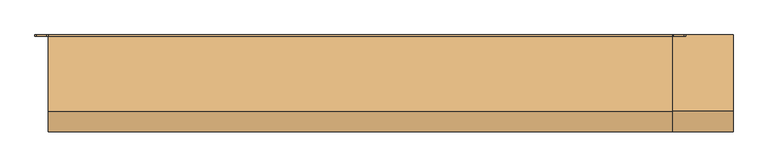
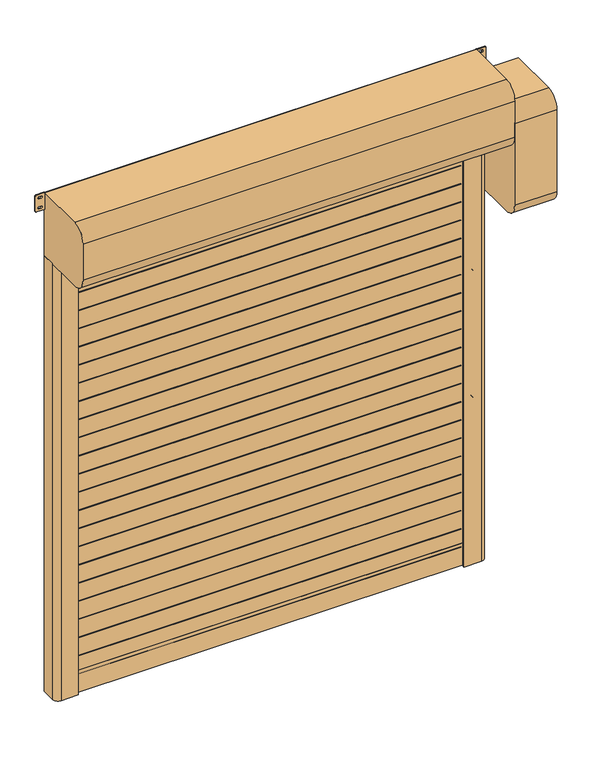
"""IFC4 building model written with IfcOpenShell, lengths in millimetres: door geometry, DO_WPB_Dynamicroll Frigo_Air_BMP : Dynamicroll Frigo1."""

from ifc_helpers import new_model, si_unit, point, frame, frame_2d, origin, origin_with_axes, place, context, project, spatial, polyline, circle_curve, trimmed, segment, composite_curve, outline, extrude, source, transform, mapped, element, save


def door_d4874c61(model_context):
    return source(origin(), model_context, "Body", "SweptSolid", [
        extrude(outline(polyline([(-1000.0, -81.5), (-1000.0, -59.5), (1000.0, -59.5), (1000.0, -81.5), (-1000.0, -81.5)])), frame((0.0, 0.0, 2599.0), z_axis=(0.0, 0.0, 1.0), x_axis=(1.0, 0.0, 0.0)), (0.0, 0.0, 1.0), 2.0),
        extrude(outline(polyline([(-1000.0, -81.5), (-1000.0, -59.5), (1000.0, -59.5), (1000.0, -81.5), (-1000.0, -81.5)])), frame((0.0, 0.0, 2499.0), z_axis=(0.0, 0.0, 1.0), x_axis=(1.0, 0.0, 0.0)), (0.0, 0.0, 1.0), 2.0),
        extrude(outline(polyline([(-1000.0, -81.5), (-1000.0, -59.5), (1000.0, -59.5), (1000.0, -81.5), (-1000.0, -81.5)])), frame((0.0, 0.0, 2399.0), z_axis=(0.0, 0.0, 1.0), x_axis=(1.0, 0.0, 0.0)), (0.0, 0.0, 1.0), 2.0),
        extrude(outline(polyline([(-1000.0, -81.5), (-1000.0, -59.5), (1000.0, -59.5), (1000.0, -81.5), (-1000.0, -81.5)])), frame((0.0, 0.0, 2299.0), z_axis=(0.0, 0.0, 1.0), x_axis=(1.0, 0.0, 0.0)), (0.0, 0.0, 1.0), 2.0),
        extrude(outline(polyline([(-1000.0, -81.5), (-1000.0, -59.5), (1000.0, -59.5), (1000.0, -81.5), (-1000.0, -81.5)])), frame((0.0, 0.0, 2199.0), z_axis=(0.0, 0.0, 1.0), x_axis=(1.0, 0.0, 0.0)), (0.0, 0.0, 1.0), 2.0),
        extrude(outline(polyline([(-1000.0, -81.5), (-1000.0, -59.5), (1000.0, -59.5), (1000.0, -81.5), (-1000.0, -81.5)])), frame((0.0, 0.0, 2099.0), z_axis=(0.0, 0.0, 1.0), x_axis=(1.0, 0.0, 0.0)), (0.0, 0.0, 1.0), 2.0),
        extrude(outline(polyline([(-1000.0, -81.5), (-1000.0, -59.5), (1000.0, -59.5), (1000.0, -81.5), (-1000.0, -81.5)])), frame((0.0, 0.0, 1999.0), z_axis=(0.0, 0.0, 1.0), x_axis=(1.0, 0.0, 0.0)), (0.0, 0.0, 1.0), 2.0),
        extrude(outline(polyline([(-1000.0, -81.5), (-1000.0, -59.5), (1000.0, -59.5), (1000.0, -81.5), (-1000.0, -81.5)])), frame((0.0, 0.0, 1899.0), z_axis=(0.0, 0.0, 1.0), x_axis=(1.0, 0.0, 0.0)), (0.0, 0.0, 1.0), 2.0),
        extrude(outline(polyline([(-1000.0, -81.5), (-1000.0, -59.5), (1000.0, -59.5), (1000.0, -81.5), (-1000.0, -81.5)])), frame((0.0, 0.0, 1799.0), z_axis=(0.0, 0.0, 1.0), x_axis=(1.0, 0.0, 0.0)), (0.0, 0.0, 1.0), 2.0),
        extrude(outline(polyline([(-1000.0, -81.5), (-1000.0, -59.5), (1000.0, -59.5), (1000.0, -81.5), (-1000.0, -81.5)])), frame((0.0, 0.0, 1699.0), z_axis=(0.0, 0.0, 1.0), x_axis=(1.0, 0.0, 0.0)), (0.0, 0.0, 1.0), 2.0),
        extrude(outline(polyline([(-1000.0, -81.5), (-1000.0, -59.5), (1000.0, -59.5), (1000.0, -81.5), (-1000.0, -81.5)])), frame((0.0, 0.0, 1599.0), z_axis=(0.0, 0.0, 1.0), x_axis=(1.0, 0.0, 0.0)), (0.0, 0.0, 1.0), 2.0),
        extrude(outline(polyline([(-1000.0, -81.5), (-1000.0, -59.5), (1000.0, -59.5), (1000.0, -81.5), (-1000.0, -81.5)])), frame((0.0, 0.0, 1499.0), z_axis=(0.0, 0.0, 1.0), x_axis=(1.0, 0.0, 0.0)), (0.0, 0.0, 1.0), 2.0),
        extrude(outline(polyline([(-1000.0, -81.5), (-1000.0, -59.5), (1000.0, -59.5), (1000.0, -81.5), (-1000.0, -81.5)])), frame((0.0, 0.0, 1399.0), z_axis=(0.0, 0.0, 1.0), x_axis=(1.0, 0.0, 0.0)), (0.0, 0.0, 1.0), 2.0),
        extrude(outline(polyline([(-1000.0, -81.5), (-1000.0, -59.5), (1000.0, -59.5), (1000.0, -81.5), (-1000.0, -81.5)])), frame((0.0, 0.0, 1299.0), z_axis=(0.0, 0.0, 1.0), x_axis=(1.0, 0.0, 0.0)), (0.0, 0.0, 1.0), 2.0),
        extrude(outline(polyline([(-1000.0, -81.5), (-1000.0, -59.5), (1000.0, -59.5), (1000.0, -81.5), (-1000.0, -81.5)])), frame((0.0, 0.0, 1199.0), z_axis=(0.0, 0.0, 1.0), x_axis=(1.0, 0.0, 0.0)), (0.0, 0.0, 1.0), 2.0),
        extrude(outline(polyline([(-1000.0, -81.5), (-1000.0, -59.5), (1000.0, -59.5), (1000.0, -81.5), (-1000.0, -81.5)])), frame((0.0, 0.0, 1099.0), z_axis=(0.0, 0.0, 1.0), x_axis=(1.0, 0.0, 0.0)), (0.0, 0.0, 1.0), 2.0),
        extrude(outline(polyline([(-1000.0, -81.5), (-1000.0, -59.5), (1000.0, -59.5), (1000.0, -81.5), (-1000.0, -81.5)])), frame((0.0, 0.0, 999.0), z_axis=(0.0, 0.0, 1.0), x_axis=(1.0, 0.0, 0.0)), (0.0, 0.0, 1.0), 2.0),
        extrude(outline(polyline([(-1000.0, -81.5), (-1000.0, -59.5), (1000.0, -59.5), (1000.0, -81.5), (-1000.0, -81.5)])), frame((0.0, 0.0, 899.0), z_axis=(0.0, 0.0, 1.0), x_axis=(1.0, 0.0, 0.0)), (0.0, 0.0, 1.0), 2.0),
        extrude(outline(polyline([(-1000.0, -81.5), (-1000.0, -59.5), (1000.0, -59.5), (1000.0, -81.5), (-1000.0, -81.5)])), frame((0.0, 0.0, 799.0), z_axis=(0.0, 0.0, 1.0), x_axis=(1.0, 0.0, 0.0)), (0.0, 0.0, 1.0), 2.0),
        extrude(outline(polyline([(-1000.0, -81.5), (-1000.0, -59.5), (1000.0, -59.5), (1000.0, -81.5), (-1000.0, -81.5)])), frame((0.0, 0.0, 699.0), z_axis=(0.0, 0.0, 1.0), x_axis=(1.0, 0.0, 0.0)), (0.0, 0.0, 1.0), 2.0),
        extrude(outline(polyline([(-1000.0, -81.5), (-1000.0, -59.5), (1000.0, -59.5), (1000.0, -81.5), (-1000.0, -81.5)])), frame((0.0, 0.0, 599.0), z_axis=(0.0, 0.0, 1.0), x_axis=(1.0, 0.0, 0.0)), (0.0, 0.0, 1.0), 2.0),
        extrude(outline(polyline([(-1000.0, -81.5), (-1000.0, -59.5), (1000.0, -59.5), (1000.0, -81.5), (-1000.0, -81.5)])), frame((0.0, 0.0, 499.0), z_axis=(0.0, 0.0, 1.0), x_axis=(1.0, 0.0, 0.0)), (0.0, 0.0, 1.0), 2.0),
        extrude(outline(polyline([(-1000.0, -81.5), (-1000.0, -59.5), (1000.0, -59.5), (1000.0, -81.5), (-1000.0, -81.5)])), frame((0.0, 0.0, 399.0), z_axis=(0.0, 0.0, 1.0), x_axis=(1.0, 0.0, 0.0)), (0.0, 0.0, 1.0), 2.0),
        extrude(outline(polyline([(-1000.0, -81.5), (-1000.0, -59.5), (1000.0, -59.5), (1000.0, -81.5), (-1000.0, -81.5)])), frame((0.0, 0.0, 299.0), z_axis=(0.0, 0.0, 1.0), x_axis=(1.0, 0.0, 0.0)), (0.0, 0.0, 1.0), 2.0),
        extrude(outline(polyline([(-1000.0, -81.5), (-1000.0, -59.5), (1000.0, -59.5), (1000.0, -81.5), (-1000.0, -81.5)])), frame((0.0, 0.0, 199.0), z_axis=(0.0, 0.0, 1.0), x_axis=(1.0, 0.0, 0.0)), (0.0, 0.0, 1.0), 2.0),
        extrude(outline(polyline([(-1000.0, -81.5), (-1000.0, -59.5), (1000.0, -59.5), (1000.0, -81.5), (-1000.0, -81.5)])), frame((0.0, 0.0, 99.0), z_axis=(0.0, 0.0, 1.0), x_axis=(1.0, 0.0, 0.0)), (0.0, 0.0, 1.0), 2.0),
        extrude(outline(composite_curve([segment(trimmed(circle_curve(frame_2d((1550.0, 1076.0)), 6.0), [point((1556.0, 1076.0))], [point((1544.0, 1076.0))], False, "CARTESIAN"), True, "CONTINUOUS"), segment(polyline([(1544.0, 1076.0), (1544.0, 1094.0)]), True, "CONTINUOUS"), segment(trimmed(circle_curve(frame_2d((1550.0, 1094.0)), 6.0), [point((1544.0, 1094.0))], [point((1556.0, 1094.0))], False, "CARTESIAN"), True, "CONTINUOUS"), segment(polyline([(1556.0, 1094.0), (1556.0, 1076.0)]), True, "CONTINUOUS")], self_intersect=False)), frame((0.0, -20.0, 0.0), z_axis=(0.0, 1.0, 0.0), x_axis=(0.0, 0.0, 1.0)), (0.0, 0.0, 1.0), 20.0),
        extrude(outline(composite_curve([segment(trimmed(circle_curve(frame_2d((850.0, 1076.0)), 6.0), [point((856.0, 1076.0))], [point((844.0, 1076.0))], False, "CARTESIAN"), True, "CONTINUOUS"), segment(polyline([(844.0, 1076.0), (844.0, 1094.0)]), True, "CONTINUOUS"), segment(trimmed(circle_curve(frame_2d((850.0, 1094.0)), 6.0), [point((844.0, 1094.0))], [point((856.0, 1094.0))], False, "CARTESIAN"), True, "CONTINUOUS"), segment(polyline([(856.0, 1094.0), (856.0, 1076.0)]), True, "CONTINUOUS")], self_intersect=False)), frame((0.0, -20.0, 0.0), z_axis=(0.0, 1.0, 0.0), x_axis=(0.0, 0.0, 1.0)), (0.0, 0.0, 1.0), 20.0),
        extrude(outline(composite_curve([segment(trimmed(circle_curve(frame_2d((2250.0, 1076.0)), 6.0), [point((2256.0, 1076.0))], [point((2244.0, 1076.0))], False, "CARTESIAN"), True, "CONTINUOUS"), segment(polyline([(2244.0, 1076.0), (2244.0, 1094.0)]), True, "CONTINUOUS"), segment(trimmed(circle_curve(frame_2d((2250.0, 1094.0)), 6.0), [point((2244.0, 1094.0))], [point((2256.0, 1094.0))], False, "CARTESIAN"), True, "CONTINUOUS"), segment(polyline([(2256.0, 1094.0), (2256.0, 1076.0)]), True, "CONTINUOUS")], self_intersect=False)), frame((0.0, -20.0, 0.0), z_axis=(0.0, 1.0, 0.0), x_axis=(0.0, 0.0, 1.0)), (0.0, 0.0, 1.0), 20.0),
        extrude(outline(composite_curve([segment(trimmed(circle_curve(frame_2d((150.0, 1076.0)), 6.0), [point((156.0, 1076.0))], [point((144.0, 1076.0))], False, "CARTESIAN"), True, "CONTINUOUS"), segment(polyline([(144.0, 1076.0), (144.0, 1094.0)]), True, "CONTINUOUS"), segment(trimmed(circle_curve(frame_2d((150.0, 1094.0)), 6.0), [point((144.0, 1094.0))], [point((156.0, 1094.0))], False, "CARTESIAN"), True, "CONTINUOUS"), segment(polyline([(156.0, 1094.0), (156.0, 1076.0)]), True, "CONTINUOUS")], self_intersect=False)), frame((0.0, -20.0, 0.0), z_axis=(0.0, 1.0, 0.0), x_axis=(0.0, 0.0, 1.0)), (0.0, 0.0, 1.0), 20.0),
        extrude(outline(composite_curve([segment(polyline([(1556.0, -1076.0), (1556.0, -1094.0)]), True, "CONTINUOUS"), segment(trimmed(circle_curve(frame_2d((1550.0, -1094.0)), 6.0), [point((1556.0, -1094.0))], [point((1544.0, -1094.0))], False, "CARTESIAN"), True, "CONTINUOUS"), segment(polyline([(1544.0, -1094.0), (1544.0, -1076.0)]), True, "CONTINUOUS"), segment(trimmed(circle_curve(frame_2d((1550.0, -1076.0)), 6.0), [point((1544.0, -1076.0))], [point((1556.0, -1076.0))], False, "CARTESIAN"), True, "CONTINUOUS")], self_intersect=False)), frame((0.0, -20.0, 0.0), z_axis=(0.0, 1.0, 0.0), x_axis=(0.0, 0.0, 1.0)), (0.0, 0.0, 1.0), 20.0),
        extrude(outline(composite_curve([segment(polyline([(856.0, -1076.0), (856.0, -1094.0)]), True, "CONTINUOUS"), segment(trimmed(circle_curve(frame_2d((850.0, -1094.0)), 6.0), [point((856.0, -1094.0))], [point((844.0, -1094.0))], False, "CARTESIAN"), True, "CONTINUOUS"), segment(polyline([(844.0, -1094.0), (844.0, -1076.0)]), True, "CONTINUOUS"), segment(trimmed(circle_curve(frame_2d((850.0, -1076.0)), 6.0), [point((844.0, -1076.0))], [point((856.0, -1076.0))], False, "CARTESIAN"), True, "CONTINUOUS")], self_intersect=False)), frame((0.0, -20.0, 0.0), z_axis=(0.0, 1.0, 0.0), x_axis=(0.0, 0.0, 1.0)), (0.0, 0.0, 1.0), 20.0),
        extrude(outline(composite_curve([segment(polyline([(2256.0, -1076.0), (2256.0, -1094.0)]), True, "CONTINUOUS"), segment(trimmed(circle_curve(frame_2d((2250.0, -1094.0)), 6.0), [point((2256.0, -1094.0))], [point((2244.0, -1094.0))], False, "CARTESIAN"), True, "CONTINUOUS"), segment(polyline([(2244.0, -1094.0), (2244.0, -1076.0)]), True, "CONTINUOUS"), segment(trimmed(circle_curve(frame_2d((2250.0, -1076.0)), 6.0), [point((2244.0, -1076.0))], [point((2256.0, -1076.0))], False, "CARTESIAN"), True, "CONTINUOUS")], self_intersect=False)), frame((0.0, -20.0, 0.0), z_axis=(0.0, 1.0, 0.0), x_axis=(0.0, 0.0, 1.0)), (0.0, 0.0, 1.0), 20.0),
        extrude(outline(composite_curve([segment(polyline([(156.0, -1076.0), (156.0, -1094.0)]), True, "CONTINUOUS"), segment(trimmed(circle_curve(frame_2d((150.0, -1094.0)), 6.0), [point((156.0, -1094.0))], [point((144.0, -1094.0))], False, "CARTESIAN"), True, "CONTINUOUS"), segment(polyline([(144.0, -1094.0), (144.0, -1076.0)]), True, "CONTINUOUS"), segment(trimmed(circle_curve(frame_2d((150.0, -1076.0)), 6.0), [point((144.0, -1076.0))], [point((156.0, -1076.0))], False, "CARTESIAN"), True, "CONTINUOUS")], self_intersect=False)), frame((0.0, -20.0, 0.0), z_axis=(0.0, 1.0, 0.0), x_axis=(0.0, 0.0, 1.0)), (0.0, 0.0, 1.0), 20.0),
        extrude(outline(polyline([(-1012.0, -61.5), (1012.0, -61.5), (1012.0, -79.5), (-1012.0, -79.5), (-1012.0, -61.5)])), frame((0.0, 0.0, 120.0), z_axis=(0.0, 0.0, 1.0), x_axis=(1.0, 0.0, 0.0)), (0.0, 0.0, 1.0), 2455.0),
        extrude(outline(polyline([(-1012.0, -59.5), (1012.0, -59.5), (1012.0, -81.5), (-1012.0, -81.5), (-1012.0, -59.5)])), origin_with_axes(), (0.0, 0.0, 1.0), 120.0),
        extrude(outline(composite_curve([segment(polyline([(-1125.0, 0.0), (-1015.0, 0.0), (-1015.0, -49.2857143), (-1035.0, -55.0), (-1000.0, -55.0), (-1000.0, -61.5), (-1020.0, -61.5), (-1020.0, -68.5), (-1000.0, -68.5), (-1000.0, -75.0), (-1035.0, -75.0), (-1035.0, -90.0), (-1005.0, -90.0), (-1005.0, -100.0), (-1095.0, -100.0)]), True, "CONTINUOUS"), segment(trimmed(circle_curve(frame_2d((-1095.0, -70.0)), 30.0), [point((-1095.0, -100.0))], [point((-1125.0, -70.0))], False, "CARTESIAN"), True, "CONTINUOUS"), segment(polyline([(-1125.0, -70.0), (-1125.0, 0.0)]), True, "CONTINUOUS")], self_intersect=False)), origin_with_axes(), (0.0, 0.0, 1.0), 2400.0),
        extrude(outline(composite_curve([segment(polyline([(1125.0, 0.0), (1125.0, -70.0)]), True, "CONTINUOUS"), segment(trimmed(circle_curve(frame_2d((1095.0, -70.0)), 30.0), [point((1125.0, -70.0))], [point((1095.0, -100.0))], False, "CARTESIAN"), True, "CONTINUOUS"), segment(polyline([(1095.0, -100.0), (1005.0, -100.0), (1005.0, -90.0), (1035.0, -90.0), (1035.0, -75.0), (1000.0, -75.0), (1000.0, -68.5), (1020.0, -68.5), (1020.0, -61.5), (1000.0, -61.5), (1000.0, -55.0), (1035.0, -55.0), (1015.0, -49.2857143), (1015.0, 0.0), (1125.0, 0.0)]), True, "CONTINUOUS")], self_intersect=False)), origin_with_axes(), (0.0, 0.0, 1.0), 2400.0),
        extrude(outline(composite_curve([segment(trimmed(circle_curve(frame_2d((-5.0, 2405.0)), 5.0), [point((0.0, 2405.0))], [point((-5.0, 2400.0))], False, "CARTESIAN"), True, "CONTINUOUS"), segment(polyline([(-5.0, 2400.0), (-275.0, 2400.0)]), True, "CONTINUOUS"), segment(trimmed(circle_curve(frame_2d((-275.0, 2475.0)), 75.0), [point((-275.0, 2400.0))], [point((-350.0, 2475.0))], False, "CARTESIAN"), True, "CONTINUOUS"), segment(polyline([(-350.0, 2475.0), (-350.0, 2675.0)]), True, "CONTINUOUS"), segment(trimmed(circle_curve(frame_2d((-275.0, 2675.0)), 75.0), [point((-350.0, 2675.0))], [point((-275.0, 2750.0))], False, "CARTESIAN"), True, "CONTINUOUS"), segment(polyline([(-275.0, 2750.0), (-5.0, 2750.0)]), True, "CONTINUOUS"), segment(trimmed(circle_curve(frame_2d((-5.0, 2745.0)), 5.0), [point((-5.0, 2750.0))], [point((0.0, 2745.0))], False, "CARTESIAN"), True, "CONTINUOUS"), segment(polyline([(0.0, 2745.0), (0.0, 2405.0)]), True, "CONTINUOUS")], self_intersect=False)), frame((-1125.0, 0.0, 0.0), z_axis=(1.0, 0.0, 0.0), x_axis=(0.0, 1.0, 0.0)), (0.0, 0.0, 1.0), 2250.0),
        extrude(outline(composite_curve([segment(trimmed(circle_curve(frame_2d((2663.75, 1130.75)), 5.75), [point((2663.75, 1125.0))], [point((2658.0, 1130.75))], False, "CARTESIAN"), True, "CONTINUOUS"), segment(polyline([(2658.0, 1130.75), (2658.0, 1168.25)]), True, "CONTINUOUS"), segment(trimmed(circle_curve(frame_2d((2663.75, 1168.25)), 5.75), [point((2658.0, 1168.25))], [point((2663.75, 1174.0))], False, "CARTESIAN"), True, "CONTINUOUS"), segment(polyline([(2663.75, 1174.0), (2744.25, 1174.0)]), True, "CONTINUOUS"), segment(trimmed(circle_curve(frame_2d((2744.25, 1168.25)), 5.75), [point((2744.25, 1174.0))], [point((2750.0, 1168.25))], False, "CARTESIAN"), True, "CONTINUOUS"), segment(polyline([(2750.0, 1168.25), (2750.0, 1130.75)]), True, "CONTINUOUS"), segment(trimmed(circle_curve(frame_2d((2744.25, 1130.75)), 5.75), [point((2750.0, 1130.75))], [point((2744.25, 1125.0))], False, "CARTESIAN"), True, "CONTINUOUS"), segment(polyline([(2744.25, 1125.0), (2663.75, 1125.0)]), True, "CONTINUOUS")], self_intersect=False), holes=[composite_curve([segment(trimmed(circle_curve(frame_2d((2731.5, 1153.75)), 5.75), [point((2737.25, 1153.75))], [point((2725.75, 1153.75))], True, "CARTESIAN"), True, "CONTINUOUS"), segment(polyline([(2725.75, 1153.75), (2725.75, 1145.25)]), True, "CONTINUOUS"), segment(trimmed(circle_curve(frame_2d((2731.5, 1145.25)), 5.75), [point((2725.75, 1145.25))], [point((2737.25, 1145.25))], True, "CARTESIAN"), True, "CONTINUOUS"), segment(polyline([(2737.25, 1145.25), (2737.25, 1153.75)]), True, "CONTINUOUS")], self_intersect=False), composite_curve([segment(trimmed(circle_curve(frame_2d((2676.5, 1153.75)), 5.75), [point((2682.25, 1153.75))], [point((2670.75, 1153.75))], True, "CARTESIAN"), True, "CONTINUOUS"), segment(polyline([(2670.75, 1153.75), (2670.75, 1145.25)]), True, "CONTINUOUS"), segment(trimmed(circle_curve(frame_2d((2676.5, 1145.25)), 5.75), [point((2670.75, 1145.25))], [point((2682.25, 1145.25))], True, "CARTESIAN"), True, "CONTINUOUS"), segment(polyline([(2682.25, 1145.25), (2682.25, 1153.75)]), True, "CONTINUOUS")], self_intersect=False)]), frame((0.0, -5.0, 0.0), z_axis=(0.0, 1.0, 0.0), x_axis=(0.0, 0.0, 1.0)), (0.0, 0.0, 1.0), 5.0),
        extrude(outline(composite_curve([segment(trimmed(circle_curve(frame_2d((2663.75, -1168.25)), 5.75), [point((2663.75, -1174.0))], [point((2658.0, -1168.25))], False, "CARTESIAN"), True, "CONTINUOUS"), segment(polyline([(2658.0, -1168.25), (2658.0, -1130.75)]), True, "CONTINUOUS"), segment(trimmed(circle_curve(frame_2d((2663.75, -1130.75)), 5.75), [point((2658.0, -1130.75))], [point((2663.75, -1125.0))], False, "CARTESIAN"), True, "CONTINUOUS"), segment(polyline([(2663.75, -1125.0), (2744.25, -1125.0)]), True, "CONTINUOUS"), segment(trimmed(circle_curve(frame_2d((2744.25, -1130.75)), 5.75), [point((2744.25, -1125.0))], [point((2750.0, -1130.75))], False, "CARTESIAN"), True, "CONTINUOUS"), segment(polyline([(2750.0, -1130.75), (2750.0, -1168.25)]), True, "CONTINUOUS"), segment(trimmed(circle_curve(frame_2d((2744.25, -1168.25)), 5.75), [point((2750.0, -1168.25))], [point((2744.25, -1174.0))], False, "CARTESIAN"), True, "CONTINUOUS"), segment(polyline([(2744.25, -1174.0), (2663.75, -1174.0)]), True, "CONTINUOUS")], self_intersect=False), holes=[composite_curve([segment(trimmed(circle_curve(frame_2d((2731.5, -1145.25)), 5.75), [point((2737.25, -1145.25))], [point((2725.75, -1145.25))], True, "CARTESIAN"), True, "CONTINUOUS"), segment(polyline([(2725.75, -1145.25), (2725.75, -1153.75)]), True, "CONTINUOUS"), segment(trimmed(circle_curve(frame_2d((2731.5, -1153.75)), 5.75), [point((2725.75, -1153.75))], [point((2737.25, -1153.75))], True, "CARTESIAN"), True, "CONTINUOUS"), segment(polyline([(2737.25, -1153.75), (2737.25, -1145.25)]), True, "CONTINUOUS")], self_intersect=False), composite_curve([segment(trimmed(circle_curve(frame_2d((2676.5, -1145.25)), 5.75), [point((2682.25, -1145.25))], [point((2670.75, -1145.25))], True, "CARTESIAN"), True, "CONTINUOUS"), segment(polyline([(2670.75, -1145.25), (2670.75, -1153.75)]), True, "CONTINUOUS"), segment(trimmed(circle_curve(frame_2d((2676.5, -1153.75)), 5.75), [point((2670.75, -1153.75))], [point((2682.25, -1153.75))], True, "CARTESIAN"), True, "CONTINUOUS"), segment(polyline([(2682.25, -1153.75), (2682.25, -1145.25)]), True, "CONTINUOUS")], self_intersect=False)]), frame((0.0, -5.0, 0.0), z_axis=(0.0, 1.0, 0.0), x_axis=(0.0, 0.0, 1.0)), (0.0, 0.0, 1.0), 5.0),
        extrude(outline(composite_curve([segment(polyline([(0.0, 2625.0), (0.0, 2025.0), (-275.0, 2025.0)]), True, "CONTINUOUS"), segment(trimmed(circle_curve(frame_2d((-275.0, 2100.0)), 75.0), [point((-275.0, 2025.0))], [point((-350.0, 2100.0))], False, "CARTESIAN"), True, "CONTINUOUS"), segment(polyline([(-350.0, 2100.0), (-350.0, 2550.0)]), True, "CONTINUOUS"), segment(trimmed(circle_curve(frame_2d((-275.0, 2550.0)), 75.0), [point((-350.0, 2550.0))], [point((-275.0, 2625.0))], False, "CARTESIAN"), True, "CONTINUOUS"), segment(polyline([(-275.0, 2625.0), (0.0, 2625.0)]), True, "CONTINUOUS")], self_intersect=False)), frame((1125.0, 0.0, 0.0), z_axis=(1.0, 0.0, 0.0), x_axis=(0.0, 1.0, 0.0)), (0.0, 0.0, 1.0), 220.0),
    ])


if __name__ == "__main__":
    model = new_model("IFC4")
    model_context = context("Model", 3, world=origin())
    ifc_project = project(units=[si_unit("LENGTHUNIT", "METRE", prefix="MILLI")], contexts=[model_context])
    site = spatial("IfcSite", under=ifc_project)
    building = spatial("IfcBuilding", under=site)
    placement = place(None, origin())
    door_shape = door_d4874c61(model_context)
    element("IfcDoor", 1, ObjectType="DO_WPB_Dynamicroll Frigo_Air_BMP : Dynamicroll Frigo1", at=placement, inside=building, context=model_context, shape_type="MappedRepresentation", body=[
        mapped(door_shape, transform((0.0, 0.0, 0.0), x_axis=(1.0, 0.0, 0.0), y_axis=(0.0, 1.0, 0.0), z_axis=(0.0, 0.0, 1.0))),
    ])
    save(model, "model.ifc")
